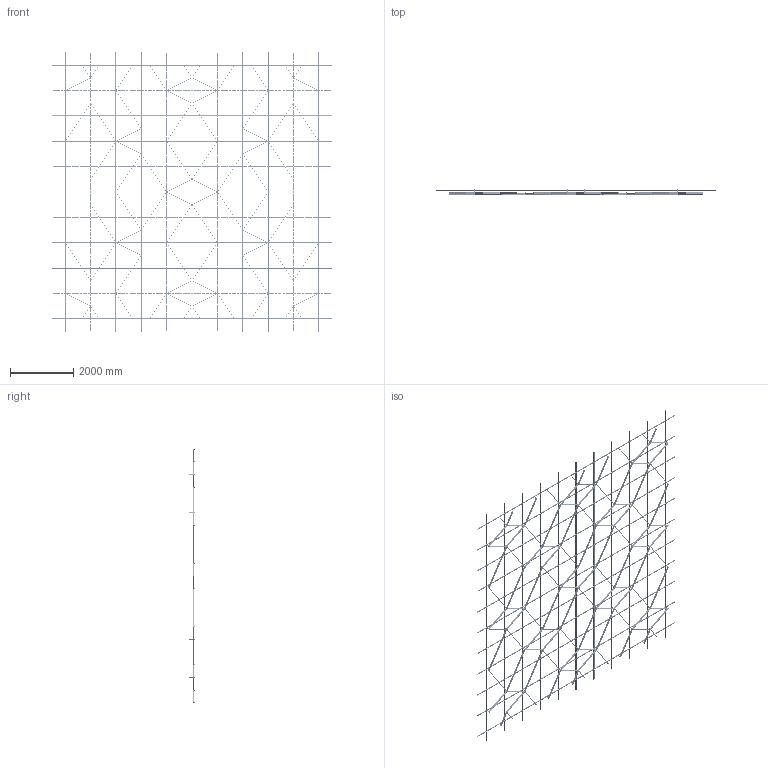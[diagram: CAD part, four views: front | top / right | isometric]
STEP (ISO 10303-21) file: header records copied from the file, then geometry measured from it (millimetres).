
FILE_DESCRIPTION (( 'STEP AP203' ), '1' );
FILE_NAME ('13 ìèíè ñ ïñ.STEP', '2025-11-26T07:59:30', ( '' ), ( '' ), 'SwSTEP 2.0', 'SolidWorks 2020', '' );
FILE_SCHEMA (( 'CONFIG_CONTROL_DESIGN' ));
Length unit declared in the file: millimetre
Products named in the file (5): Var13; 13 ìèíè ñ ïñ; Ñèñòåìà â çîíå 8000õ8000; SS.SEMA.2400 - Ñèìà-ïðîôèëü — îáðåçàí 1600; SS.SEMA.2400 - Ñèìà-ïðîôèëü
Assembly tree (90 placements, depth 3):
  13 ìèíè ñ ïñ
    Ñèñòåìà â çîíå 8000õ8000
      SS.SEMA.2400 - Ñèìà-ïðîôèëü  x66
      SS.SEMA.2400 - Ñèìà-ïðîôèëü — îáðåçàí 1600  x22
    Var13
Bounding box: 8800 x 158 x 8800 mm (x, y, z)
Volume: 65800098.1 mm3; surface area: 41734581.8 mm2
Topology: 504 solids, 504 shells, 18388 faces, 50732 edges, 33352 vertices
Faces by surface type: cylinder 12466, plane 5922
Entity records: 58463 total; most frequent: CARTESIAN_POINT 12986, DIRECTION 8562, ORIENTED_EDGE 8312, EDGE_CURVE 4156, AXIS2_PLACEMENT_3D 4032, VERTEX_POINT 2760, EDGE_LOOP 2394, ADVANCED_FACE 2232
